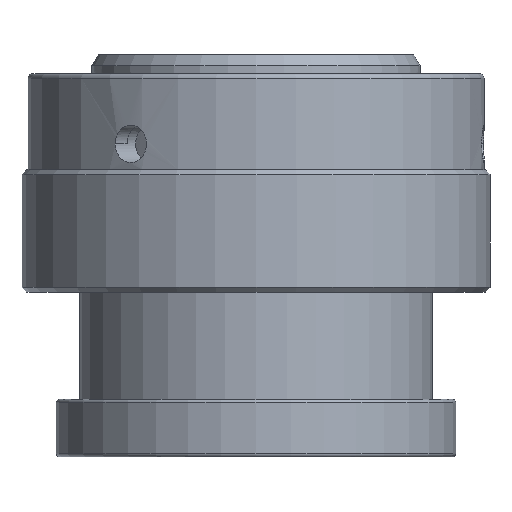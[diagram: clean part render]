
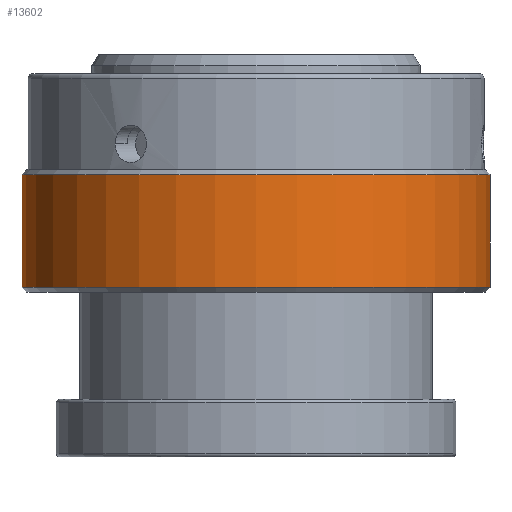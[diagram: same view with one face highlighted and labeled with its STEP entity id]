
A CAD part, left-side view. The second image highlights one B-rep face of the part: STEP entity #13602.
In plain terms, the highlighted cylindrical face has radius 24.765 mm (diameter 49.53 mm), a partial arc.
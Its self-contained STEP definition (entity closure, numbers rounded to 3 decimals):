
#4662=CARTESIAN_POINT('',(0.,0.,-10.668));
#4663=DIRECTION('',(0.,0.,1.));
#4664=DIRECTION('',(0.,1.,0.));
#4665=AXIS2_PLACEMENT_3D('',#4662,#4663,#4664);
#4667=DIRECTION('',(0.,0.,1.));
#4668=VECTOR('',#4667,11.938);
#4669=CARTESIAN_POINT('',(0.,-24.765,-22.606));
#4670=LINE('',#4669,#4668);
#4671=CARTESIAN_POINT('',(0.,0.,-22.606));
#4672=DIRECTION('',(0.,0.,1.));
#4673=DIRECTION('',(0.,1.,0.));
#4674=AXIS2_PLACEMENT_3D('',#4671,#4672,#4673);
#4676=DIRECTION('',(0.,0.,1.));
#4677=VECTOR('',#4676,11.938);
#4678=CARTESIAN_POINT('',(0.,24.765,-22.606));
#4679=LINE('',#4678,#4677);
#6773=CARTESIAN_POINT('',(0.,-24.765,-10.668));
#6774=CARTESIAN_POINT('',(0.,24.765,-10.668));
#6775=VERTEX_POINT('',#6773);
#6776=VERTEX_POINT('',#6774);
#6777=CARTESIAN_POINT('',(0.,-24.765,-22.606));
#6778=CARTESIAN_POINT('',(0.,24.765,-22.606));
#6779=VERTEX_POINT('',#6777);
#6780=VERTEX_POINT('',#6778);
#13590=CARTESIAN_POINT('',(0.,0.,1.156));
#13591=DIRECTION('',(0.,0.,-1.));
#13592=DIRECTION('',(0.,-1.,0.));
#13593=AXIS2_PLACEMENT_3D('',#13590,#13591,#13592);
#13594=CYLINDRICAL_SURFACE('',#13593,24.765);
#13595=ORIENTED_EDGE('',*,*,#13584,.T.);
#13596=ORIENTED_EDGE('',*,*,#7624,.F.);
#13598=ORIENTED_EDGE('',*,*,#13597,.F.);
#13599=ORIENTED_EDGE('',*,*,#7621,.T.);
#13600=EDGE_LOOP('',(#13595,#13596,#13598,#13599));
#13601=FACE_OUTER_BOUND('',#13600,.F.);
#13602=ADVANCED_FACE('',(#13601),#13594,.T.);
#4666=CIRCLE('',#4665,24.765);
#4675=CIRCLE('',#4674,24.765);
#7621=EDGE_CURVE('',#6780,#6776,#4679,.T.);
#7624=EDGE_CURVE('',#6779,#6775,#4670,.T.);
#13584=EDGE_CURVE('',#6776,#6775,#4666,.T.);
#13597=EDGE_CURVE('',#6780,#6779,#4675,.T.);
